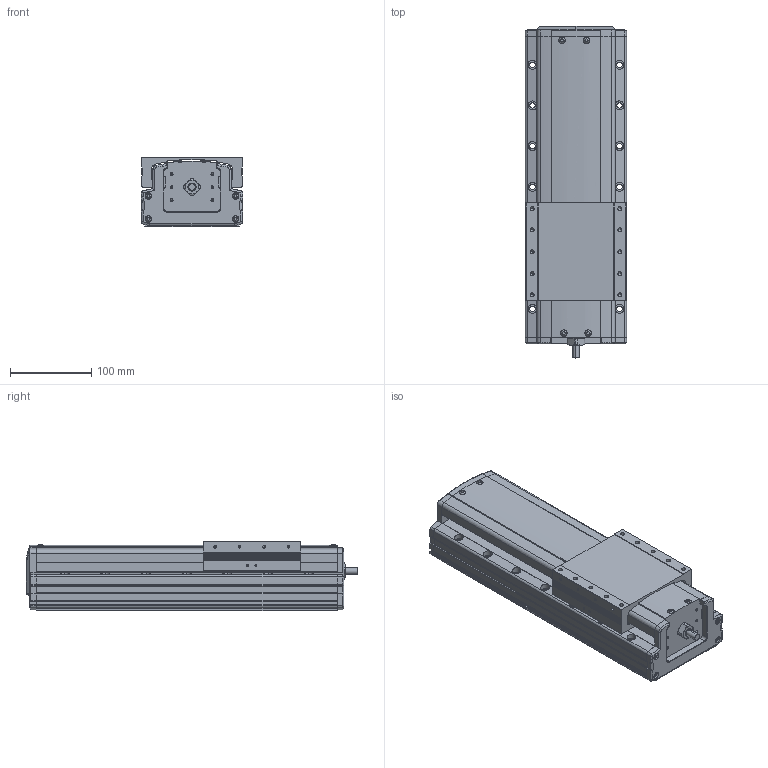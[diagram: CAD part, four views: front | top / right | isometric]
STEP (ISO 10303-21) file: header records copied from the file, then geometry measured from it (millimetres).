
FILE_DESCRIPTION(('STEP AP214'),'1');
FILE_NAME('Z:/Web/3D/PSA125/STP/PSA125-150 (3D)/PSA125ㅁㅁ-150.stp','2014-06-20T08:48:06',(' '),(' '),'Spatial InterOp 3D',' ',' ');
FILE_SCHEMA(('automotive_design'));
Length unit declared in the file: millimetre
Products named in the file (18): 스크루 : Round - M4.0 x 10.0; RRCV-PA120; SLIDE; BASE; FRCV-PA120-1(기준 뿔 제거); RR1500; 스크루 : Round - M4.0 x 6.0; 너트 : Square - M10.0 x 220.7419
Bounding box: 125 x 408.1 x 86 mm (x, y, z)
Volume: 3335770 mm3; surface area: 328094.8 mm2
Topology: 18 solids, 18 shells, 1802 faces, 4861 edges, 3104 vertices
Faces by surface type: plane 1006, cylinder 528, cone 180, sphere 32, bspline 31, torus 25
Entity records: 72647 total; most frequent: CARTESIAN_POINT 12417, DIRECTION 9511, ORIENTED_EDGE 9510, EDGE_CURVE 4755, LINE 3265, VECTOR 3265, AXIS2_PLACEMENT_3D 3123, VERTEX_POINT 3104
